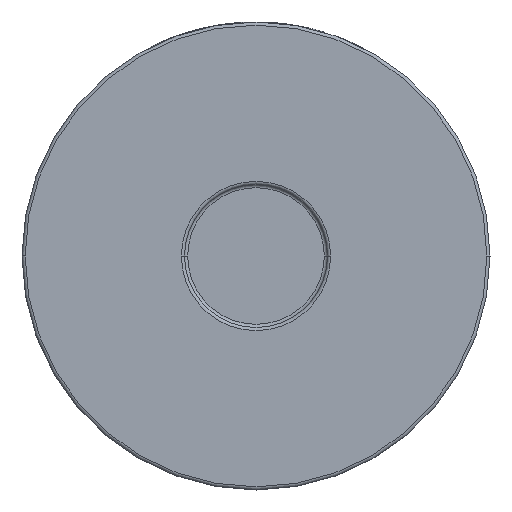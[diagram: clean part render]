
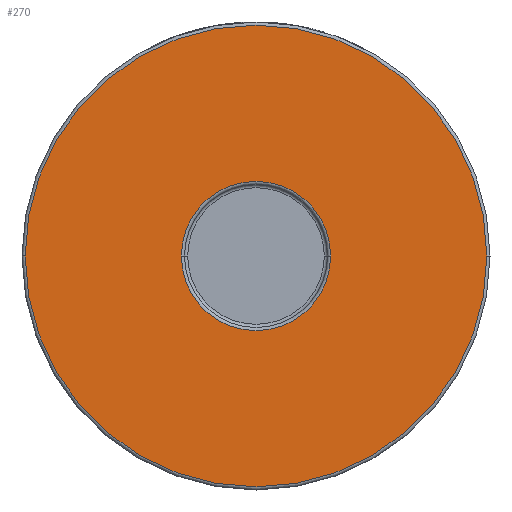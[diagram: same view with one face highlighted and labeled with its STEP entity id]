
A CAD part, front view. The second image highlights one B-rep face of the part: STEP entity #270.
In plain terms, the highlighted planar face has unit normal (0, -1, 0).
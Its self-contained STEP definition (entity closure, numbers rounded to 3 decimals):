
#20 = ORIENTED_EDGE ( 'NONE', *, *, #3789, .T. ) ;
#38 = CARTESIAN_POINT ( 'NONE',  ( 0., -45., 0. ) ) ;
#241 = AXIS2_PLACEMENT_3D ( 'NONE', #357, #3250, #2935 ) ;
#270 = ADVANCED_FACE ( 'NONE', ( #756, #1098 ), #3342, .T. ) ;
#280 = EDGE_CURVE ( 'NONE', #1127, #4069, #2468, .T. ) ;
#357 = CARTESIAN_POINT ( 'NONE',  ( 0., -45., 0. ) ) ;
#383 = AXIS2_PLACEMENT_3D ( 'NONE', #2507, #2194, #4000 ) ;
#390 = ORIENTED_EDGE ( 'NONE', *, *, #4010, .T. ) ;
#755 = DIRECTION ( 'NONE',  ( 0., 1., 0. ) ) ;
#756 = FACE_BOUND ( 'NONE', #4196, .T. ) ;
#779 = DIRECTION ( 'NONE',  ( 0., -1., 0. ) ) ;
#1005 = AXIS2_PLACEMENT_3D ( 'NONE', #1097, #755, #3615 ) ;
#1007 = VERTEX_POINT ( 'NONE', #4259 ) ;
#1097 = CARTESIAN_POINT ( 'NONE',  ( 0., -45., 0. ) ) ;
#1098 = FACE_OUTER_BOUND ( 'NONE', #2216, .T. ) ;
#1127 = VERTEX_POINT ( 'NONE', #1343 ) ;
#1272 = EDGE_CURVE ( 'NONE', #1007, #4653, #4406, .T. ) ;
#1343 = CARTESIAN_POINT ( 'NONE',  ( -73., -45., 0. ) ) ;
#2017 = ORIENTED_EDGE ( 'NONE', *, *, #280, .T. ) ;
#2176 = DIRECTION ( 'NONE',  ( 1., 0., 0. ) ) ;
#2194 = DIRECTION ( 'NONE',  ( 0., -1., 0. ) ) ;
#2216 = EDGE_LOOP ( 'NONE', ( #390, #2017 ) ) ;
#2304 = CARTESIAN_POINT ( 'NONE',  ( 23.6, -45., 0. ) ) ;
#2468 = CIRCLE ( 'NONE', #3565, 73. ) ;
#2507 = CARTESIAN_POINT ( 'NONE',  ( 0., -45., 0. ) ) ;
#2848 = CIRCLE ( 'NONE', #1005, 23.6 ) ;
#2926 = DIRECTION ( 'NONE',  ( 1., 0., 0. ) ) ;
#2935 = DIRECTION ( 'NONE',  ( 1., 0., 0. ) ) ;
#2974 = CARTESIAN_POINT ( 'NONE',  ( 74., -45., 0. ) ) ;
#3250 = DIRECTION ( 'NONE',  ( 0., 1., 0. ) ) ;
#3342 = PLANE ( 'NONE',  #4104 ) ;
#3565 = AXIS2_PLACEMENT_3D ( 'NONE', #38, #779, #2926 ) ;
#3615 = DIRECTION ( 'NONE',  ( 1., 0., 0. ) ) ;
#3629 = CARTESIAN_POINT ( 'NONE',  ( 73., -45., 0. ) ) ;
#3735 = DIRECTION ( 'NONE',  ( 0., -1., 0. ) ) ;
#3789 = EDGE_CURVE ( 'NONE', #4653, #1007, #2848, .T. ) ;
#4000 = DIRECTION ( 'NONE',  ( 1., 0., 0. ) ) ;
#4010 = EDGE_CURVE ( 'NONE', #4069, #1127, #4174, .T. ) ;
#4069 = VERTEX_POINT ( 'NONE', #3629 ) ;
#4104 = AXIS2_PLACEMENT_3D ( 'NONE', #2974, #3735, #2176 ) ;
#4174 = CIRCLE ( 'NONE', #383, 73. ) ;
#4196 = EDGE_LOOP ( 'NONE', ( #20, #4247 ) ) ;
#4247 = ORIENTED_EDGE ( 'NONE', *, *, #1272, .T. ) ;
#4259 = CARTESIAN_POINT ( 'NONE',  ( -23.6, -45., 0. ) ) ;
#4406 = CIRCLE ( 'NONE', #241, 23.6 ) ;
#4653 = VERTEX_POINT ( 'NONE', #2304 ) ;
